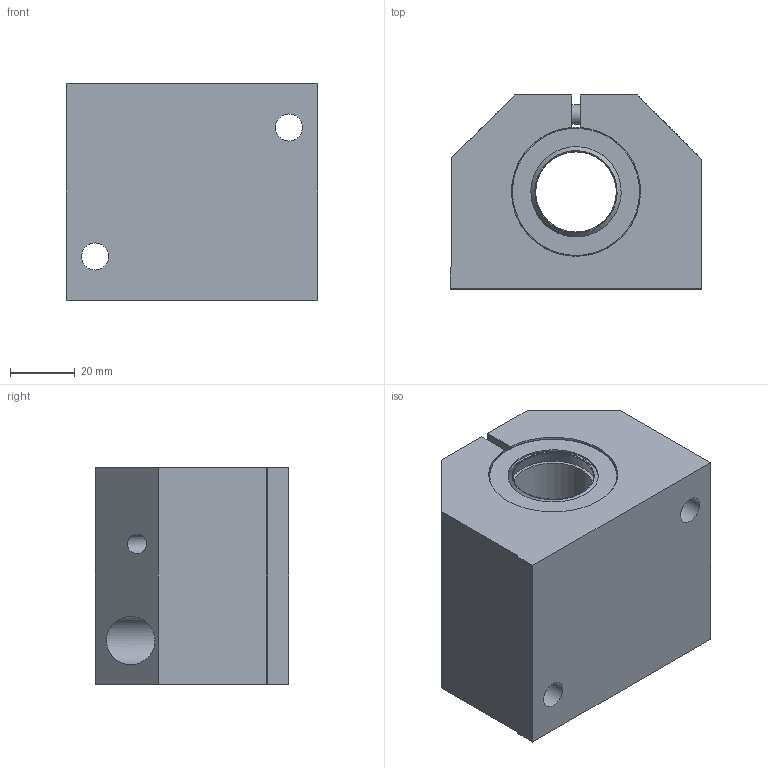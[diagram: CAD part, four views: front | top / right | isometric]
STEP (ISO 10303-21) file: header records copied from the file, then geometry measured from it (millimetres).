
FILE_DESCRIPTION(('STEP AP203'),'1');
FILE_NAME('//192.168.1.1/share/s-4 技術開発/s-4-4_CAD/s-4-4-3_見直し済み/008 修正済み/SLS(済)/SLS_TOP/SLS-25.step','2022-03-09T07:11:06',(' '),(' '),'Spatial InterOp 3D',' ',' ');
FILE_SCHEMA(('CONFIG_CONTROL_DESIGN'));
Length unit declared in the file: millimetre
Products named in the file (1): 1
Bounding box: 78 x 60 x 67 mm (x, y, z)
Volume: 236596.6 mm3; surface area: 39452 mm2
Topology: 1 solids, 1 shells, 91 faces, 208 edges, 131 vertices
Faces by surface type: plane 41, cylinder 35, torus 8, cone 7
Full cylindrical faces by diameter (mm): 6 x4, 6.6 x1, 7 x2, 8.4 x4, 10 x1, 11 x1, 15 x2, 25 x3, 28 x2, 34 x2, 38.5 x2
Entity records: 2328 total; most frequent: DIRECTION 414, CARTESIAN_POINT 394, ORIENTED_EDGE 304, AXIS2_PLACEMENT_3D 171, EDGE_LOOP 158, EDGE_CURVE 152, FACE_OUTER_BOUND 123, VERTEX_POINT 117
